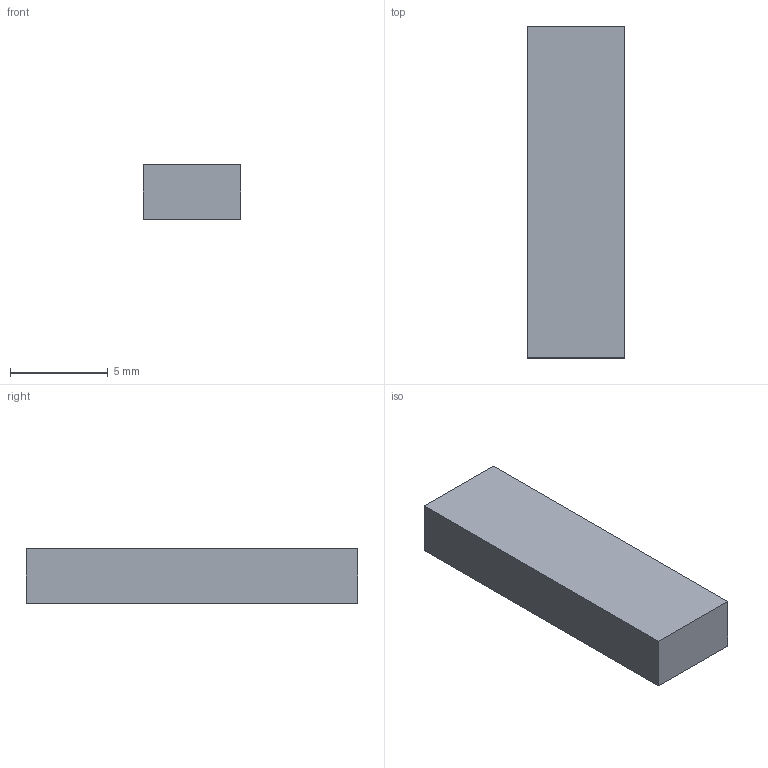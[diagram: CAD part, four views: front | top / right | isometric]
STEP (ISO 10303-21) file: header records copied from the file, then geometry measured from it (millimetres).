
FILE_DESCRIPTION(('Open CASCADE Model'),'2;1');
FILE_NAME('Open CASCADE Shape Model','2026-09-24T05:33:24',('Author'),( 'Open CASCADE'),'Open CASCADE STEP processor 7.8','Open CASCADE 7.8' ,'Unknown');
FILE_SCHEMA(('AUTOMOTIVE_DESIGN { 1 0 10303 214 1 1 1 1 }'));
Length unit declared in the file: millimetre
Products named in the file (1): Open CASCADE STEP translator 7.8 110
Bounding box: 5 x 17 x 2.8 mm (x, y, z)
Volume: 238 mm3; surface area: 293.2 mm2
Topology: 1 solids, 1 shells, 6 faces, 12 edges, 8 vertices
Faces by surface type: plane 6
Entity records: 322 total; most frequent: CARTESIAN_POINT 51, DIRECTION 50, LINE 36, VECTOR 36, ORIENTED_EDGE 24, PCURVE 24, DEFINITIONAL_REPRESENTATION 24, EDGE_CURVE 12
